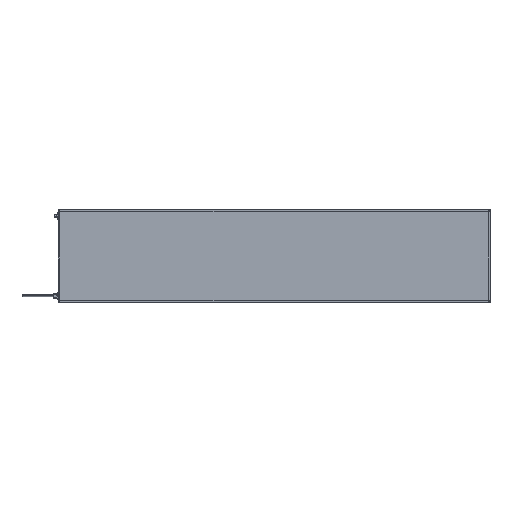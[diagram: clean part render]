
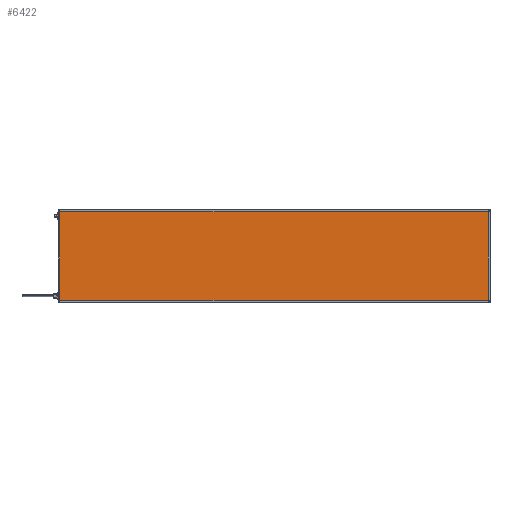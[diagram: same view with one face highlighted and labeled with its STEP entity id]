
A CAD part, top view. The second image highlights one B-rep face of the part: STEP entity #6422.
In plain terms, the highlighted planar face has unit normal (0, 0, 1).
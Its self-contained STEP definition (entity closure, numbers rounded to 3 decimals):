
#971 = VECTOR ( 'NONE', #5203, 1000. ) ;
#1229 = DIRECTION ( 'NONE',  ( 0., 0., -1. ) ) ;
#1323 = PLANE ( 'NONE',  #1545 ) ;
#1545 = AXIS2_PLACEMENT_3D ( 'NONE', #17919, #1229, #16366 ) ;
#2290 = VERTEX_POINT ( 'NONE', #9050 ) ;
#2844 = CARTESIAN_POINT ( 'NONE',  ( 1896., 396., 41.85 ) ) ;
#3051 = VERTEX_POINT ( 'NONE', #7631 ) ;
#3090 = VECTOR ( 'NONE', #11548, 1000. ) ;
#3562 = LINE ( 'NONE', #16319, #971 ) ;
#3664 = EDGE_CURVE ( 'NONE', #2290, #7570, #7056, .T. ) ;
#5203 = DIRECTION ( 'NONE',  ( 0., -1., 0. ) ) ;
#6422 = ADVANCED_FACE ( 'NONE', ( #10734 ), #1323, .F. ) ;
#7056 = LINE ( 'NONE', #12619, #9073 ) ;
#7539 = CARTESIAN_POINT ( 'NONE',  ( 1896., 4., 41.85 ) ) ;
#7570 = VERTEX_POINT ( 'NONE', #7539 ) ;
#7631 = CARTESIAN_POINT ( 'NONE',  ( 4., 396., 41.85 ) ) ;
#8511 = DIRECTION ( 'NONE',  ( 1., 0., 0. ) ) ;
#9050 = CARTESIAN_POINT ( 'NONE',  ( 4., 4., 41.85 ) ) ;
#9073 = VECTOR ( 'NONE', #8511, 1000. ) ;
#9230 = EDGE_CURVE ( 'NONE', #3051, #2290, #3562, .T. ) ;
#9813 = VECTOR ( 'NONE', #14723, 1000. ) ;
#10452 = CARTESIAN_POINT ( 'NONE',  ( 1896., 0., 41.85 ) ) ;
#10560 = ORIENTED_EDGE ( 'NONE', *, *, #13052, .T. ) ;
#10734 = FACE_OUTER_BOUND ( 'NONE', #14035, .T. ) ;
#11548 = DIRECTION ( 'NONE',  ( -1., 0., 0. ) ) ;
#12352 = ORIENTED_EDGE ( 'NONE', *, *, #9230, .T. ) ;
#12619 = CARTESIAN_POINT ( 'NONE',  ( 0., 4., 41.85 ) ) ;
#12886 = ORIENTED_EDGE ( 'NONE', *, *, #3664, .T. ) ;
#12913 = CARTESIAN_POINT ( 'NONE',  ( 0., 396., 41.85 ) ) ;
#13052 = EDGE_CURVE ( 'NONE', #16621, #3051, #15639, .T. ) ;
#13372 = ORIENTED_EDGE ( 'NONE', *, *, #16027, .T. ) ;
#14035 = EDGE_LOOP ( 'NONE', ( #13372, #10560, #12352, #12886 ) ) ;
#14723 = DIRECTION ( 'NONE',  ( 0., 1., 0. ) ) ;
#15639 = LINE ( 'NONE', #12913, #3090 ) ;
#16027 = EDGE_CURVE ( 'NONE', #7570, #16621, #17366, .T. ) ;
#16319 = CARTESIAN_POINT ( 'NONE',  ( 4., 0., 41.85 ) ) ;
#16366 = DIRECTION ( 'NONE',  ( -1., 0., 0. ) ) ;
#16621 = VERTEX_POINT ( 'NONE', #2844 ) ;
#17366 = LINE ( 'NONE', #10452, #9813 ) ;
#17919 = CARTESIAN_POINT ( 'NONE',  ( 0., 0., 41.85 ) ) ;
